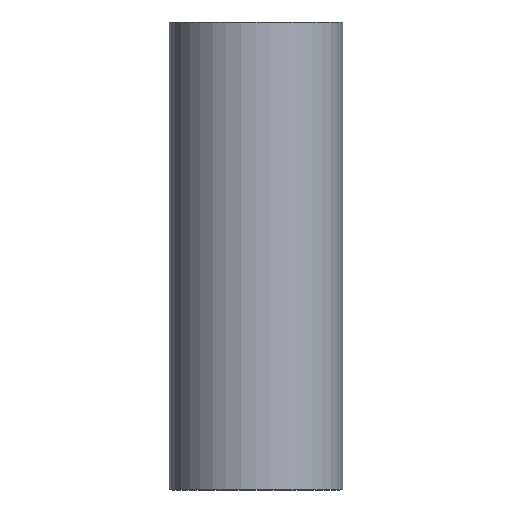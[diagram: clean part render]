
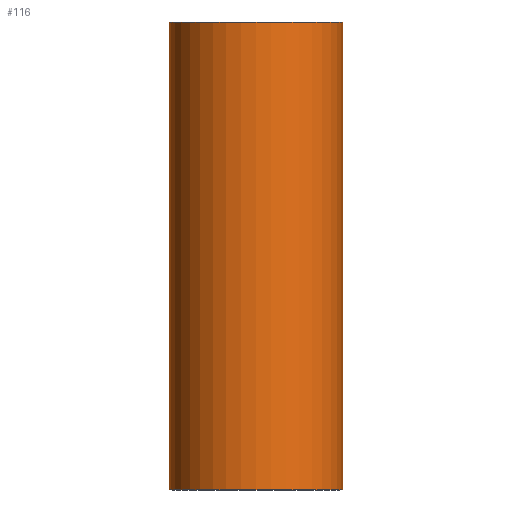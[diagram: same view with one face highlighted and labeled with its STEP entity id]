
A CAD part, left-side view. The second image highlights one B-rep face of the part: STEP entity #116.
In plain terms, the highlighted cylindrical face has radius 100 mm (diameter 200 mm), a full revolution.
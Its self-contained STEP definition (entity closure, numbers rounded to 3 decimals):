
#23=FACE_BOUND('',#51,.T.);
#24=FACE_BOUND('',#52,.T.);
#30=CIRCLE('',#151,100.);
#31=CIRCLE('',#153,100.);
#37=FACE_OUTER_BOUND('',#50,.T.);
#50=EDGE_LOOP('',(#93));
#51=EDGE_LOOP('',(#94,#95));
#52=EDGE_LOOP('',(#96));
#57=ELLIPSE('',#146,261.313,100.);
#58=ELLIPSE('',#147,108.239,100.);
#64=VERTEX_POINT('',#205);
#65=VERTEX_POINT('',#206);
#67=VERTEX_POINT('',#213);
#68=VERTEX_POINT('',#216);
#74=EDGE_CURVE('',#64,#65,#57,.T.);
#75=EDGE_CURVE('',#65,#64,#58,.T.);
#77=EDGE_CURVE('',#67,#67,#30,.T.);
#78=EDGE_CURVE('',#68,#68,#31,.T.);
#93=ORIENTED_EDGE('',*,*,#77,.T.);
#94=ORIENTED_EDGE('',*,*,#75,.T.);
#95=ORIENTED_EDGE('',*,*,#74,.T.);
#96=ORIENTED_EDGE('',*,*,#78,.F.);
#102=CYLINDRICAL_SURFACE('',#152,100.);
#116=ADVANCED_FACE('',(#37,#23,#24),#102,.T.);
#146=AXIS2_PLACEMENT_3D('',#207,#173,#174);
#147=AXIS2_PLACEMENT_3D('',#208,#175,#176);
#151=AXIS2_PLACEMENT_3D('',#214,#183,#184);
#152=AXIS2_PLACEMENT_3D('',#215,#185,#186);
#153=AXIS2_PLACEMENT_3D('',#217,#187,#188);
#173=DIRECTION('center_axis',(-0.924,0.,0.383));
#174=DIRECTION('ref_axis',(-0.383,0.,-0.924));
#175=DIRECTION('center_axis',(-0.383,0.,-0.924));
#176=DIRECTION('ref_axis',(0.924,0.,-0.383));
#183=DIRECTION('center_axis',(0.,0.,-1.));
#184=DIRECTION('ref_axis',(1.,0.,0.));
#185=DIRECTION('center_axis',(0.,0.,-1.));
#186=DIRECTION('ref_axis',(-1.,0.,0.));
#187=DIRECTION('center_axis',(0.,0.,-1.));
#188=DIRECTION('ref_axis',(1.,0.,0.));
#205=CARTESIAN_POINT('',(0.,-100.,180.));
#206=CARTESIAN_POINT('',(0.,100.,180.));
#207=CARTESIAN_POINT('Origin',(0.,0.,180.));
#208=CARTESIAN_POINT('Origin',(0.,0.,180.));
#213=CARTESIAN_POINT('',(-100.,0.,540.));
#214=CARTESIAN_POINT('Origin',(0.,0.,540.));
#215=CARTESIAN_POINT('Origin',(0.,0.,270.));
#216=CARTESIAN_POINT('',(-100.,0.,0.));
#217=CARTESIAN_POINT('Origin',(0.,0.,0.));
